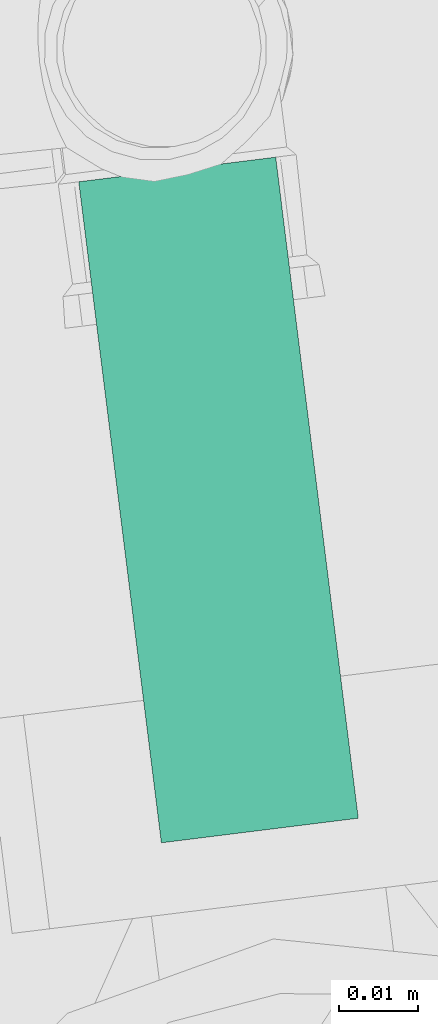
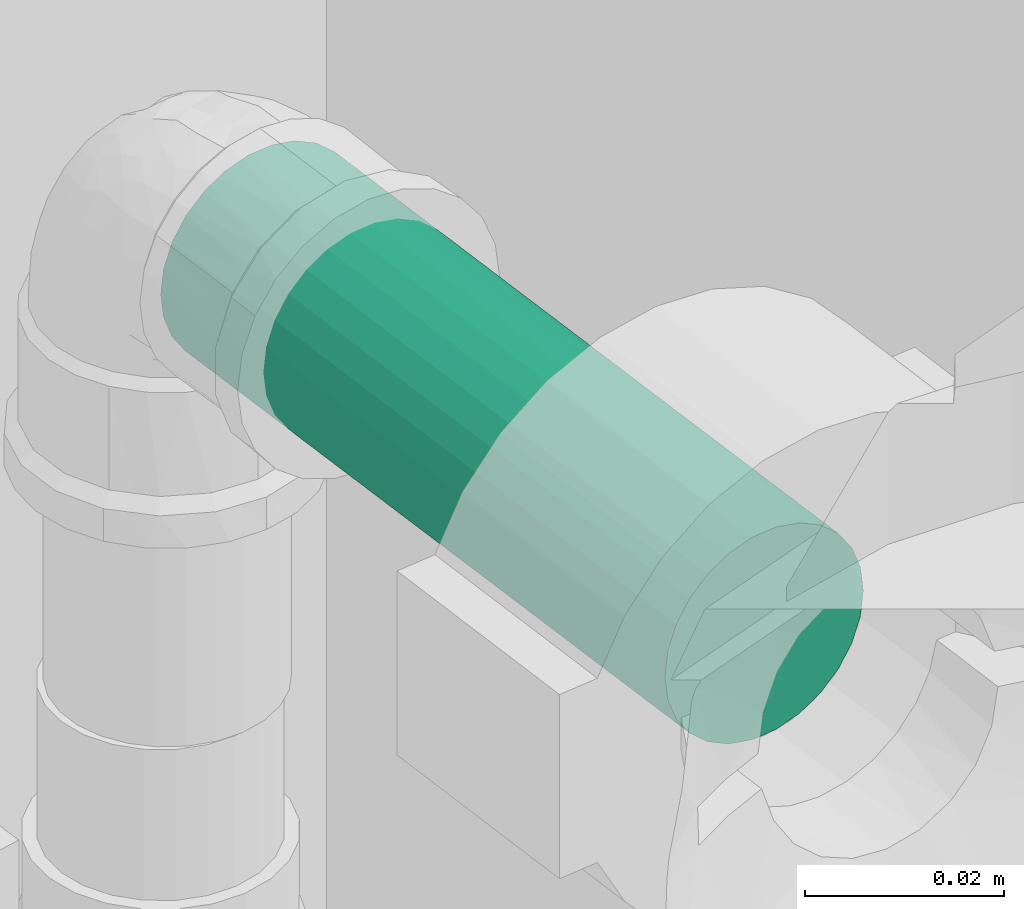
# One storey, part 81 of 97: 1 flow segment.
"""IFC2X3 building model written with IfcOpenShell, lengths in centimetres."""

from ifc_helpers import new_model, entity, si_unit, converted_unit, derived_unit, direction, frame, origin, origin_2d_with_axis, place, context, subcontext, project, spatial, circle, extrude, type_object, element, save


model = new_model("IFC2X3")

# Units and contexts
model_context = context("Model", 3, precision=0.001, world=origin(), true_north=direction((6.12303176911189e-17, 1.0)))
body_context = subcontext(model_context, "Body", "Model", "MODEL_VIEW")
ifc_project = project(units=[si_unit("LENGTHUNIT", "METRE", prefix="CENTI"), si_unit("AREAUNIT", "SQUARE_METRE"), si_unit("VOLUMEUNIT", "CUBIC_METRE"), converted_unit("PLANEANGLEUNIT", "DEGREE", entity("IfcRatioMeasure", 0.0174532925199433), si_unit("PLANEANGLEUNIT", "RADIAN"), dimensions=[0, 0, 0, 0, 0, 0, 0]), si_unit("MASSUNIT", "GRAM", prefix="KILO"), derived_unit("MASSDENSITYUNIT", [(si_unit("MASSUNIT", "GRAM", prefix="KILO"), 1), (si_unit("LENGTHUNIT", "METRE"), -3)]), derived_unit("MOMENTOFINERTIAUNIT", [(si_unit("LENGTHUNIT", "METRE"), 4)]), si_unit("TIMEUNIT", "SECOND"), si_unit("FREQUENCYUNIT", "HERTZ"), si_unit("THERMODYNAMICTEMPERATUREUNIT", "DEGREE_CELSIUS"), derived_unit("THERMALTRANSMITTANCEUNIT", [(si_unit("MASSUNIT", "GRAM", prefix="KILO"), 1), (si_unit("THERMODYNAMICTEMPERATUREUNIT", "KELVIN"), -1), (si_unit("TIMEUNIT", "SECOND"), -3)]), derived_unit("VOLUMETRICFLOWRATEUNIT", [(si_unit("LENGTHUNIT", "METRE"), 3), (si_unit("TIMEUNIT", "SECOND"), -1)]), si_unit("ELECTRICCURRENTUNIT", "AMPERE"), si_unit("ELECTRICVOLTAGEUNIT", "VOLT"), si_unit("POWERUNIT", "WATT"), si_unit("FORCEUNIT", "NEWTON", prefix="KILO"), si_unit("ILLUMINANCEUNIT", "LUX"), si_unit("LUMINOUSFLUXUNIT", "LUMEN"), si_unit("LUMINOUSINTENSITYUNIT", "CANDELA"), derived_unit("USERDEFINED", [(si_unit("MASSUNIT", "GRAM", prefix="KILO"), -1), (si_unit("LENGTHUNIT", "METRE"), -2), (si_unit("TIMEUNIT", "SECOND"), 3), (si_unit("LUMINOUSFLUXUNIT", "LUMEN"), 1)]), derived_unit("LINEARVELOCITYUNIT", [(si_unit("LENGTHUNIT", "METRE"), 1), (si_unit("TIMEUNIT", "SECOND"), -1)]), si_unit("PRESSUREUNIT", "PASCAL"), derived_unit("USERDEFINED", [(si_unit("LENGTHUNIT", "METRE"), -2), (si_unit("MASSUNIT", "GRAM", prefix="KILO"), 1), (si_unit("TIMEUNIT", "SECOND"), -2)]), derived_unit("LINEARFORCEUNIT", [(si_unit("MASSUNIT", "GRAM", prefix="KILO"), 1), (si_unit("LENGTHUNIT", "METRE"), 1), (si_unit("TIMEUNIT", "SECOND"), -2), (si_unit("LENGTHUNIT", "METRE"), -1)]), derived_unit("PLANARFORCEUNIT", [(si_unit("MASSUNIT", "GRAM", prefix="KILO"), 1), (si_unit("LENGTHUNIT", "METRE"), 1), (si_unit("TIMEUNIT", "SECOND"), -2), (si_unit("LENGTHUNIT", "METRE"), -2)])], contexts=[model_context])

# Site, building, storey
site_placement = place(None, origin())
site = spatial("IfcSite", under=ifc_project, at=site_placement, Name="Default", CompositionType="ELEMENT")
building_placement = place(site_placement, origin())
building = spatial("IfcBuilding", under=site, at=building_placement, Name="HIDROSSANITÁRIO", CompositionType="ELEMENT")
storey_placement = place(building_placement, frame((0.0, 0.0, -260.0)))
storey = spatial("IfcBuildingStorey", under=building, at=storey_placement, Name="TÉRREO-HID", CompositionType="ELEMENT", Elevation=-260.0)

# Flow segment
pipe_segment_type = type_object("IfcPipeSegmentType", Name="Tipos de tubos:Tubo Marrom - Água Fria - Soldável", PredefinedType="NOTDEFINED")
flow_segment_placement = place(storey_placement, origin())
element("IfcFlowSegment", 1, at=flow_segment_placement, inside=storey, type_object=pipe_segment_type, Name="Tipos de tubos:Tubo Marrom - Água Fria - Soldável", ObjectType="Tipos de tubos:Tubo Marrom - Água Fria - Soldável", context=body_context, shape_type="SweptSolid", body=[
    extrude(circle(Radius=1.25, at=origin_2d_with_axis()), frame((-2445.16987344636, 3281.23159823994, 86.0), z_axis=(-0.124024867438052, 0.992279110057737, 0.0), x_axis=(-0.992279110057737, -0.124024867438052, 0.0)), (0.0, 0.0, 1.0), 8.390748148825),
])

save(model, "model.ifc")
